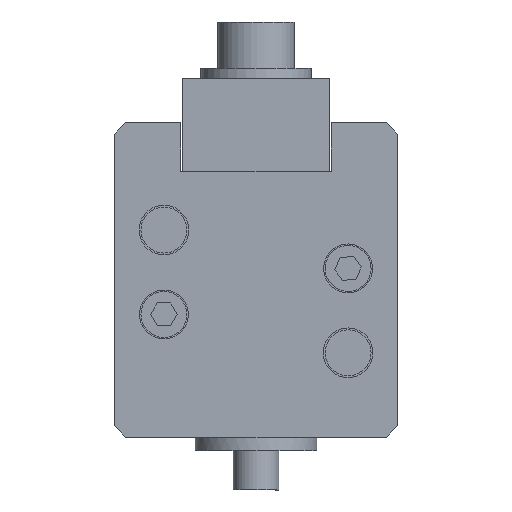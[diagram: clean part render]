
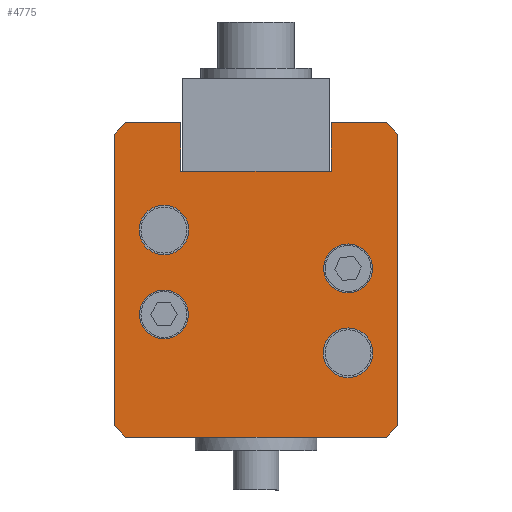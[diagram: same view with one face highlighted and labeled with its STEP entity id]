
A CAD part, front view. The second image highlights one B-rep face of the part: STEP entity #4775.
In plain terms, the highlighted planar face has unit normal (0, -1, 0).
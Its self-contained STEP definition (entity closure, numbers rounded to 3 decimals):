
#55 = DIRECTION ( 'NONE',  ( 0., 0., -1. ) ) ;
#77 = ORIENTED_EDGE ( 'NONE', *, *, #522, .T. ) ;
#101 = VERTEX_POINT ( 'NONE', #1698 ) ;
#102 = CARTESIAN_POINT ( 'NONE',  ( 8.89, -13.5, 9.779 ) ) ;
#122 = ORIENTED_EDGE ( 'NONE', *, *, #4988, .T. ) ;
#131 = VERTEX_POINT ( 'NONE', #4662 ) ;
#148 = AXIS2_PLACEMENT_3D ( 'NONE', #1252, #4133, #2942 ) ;
#165 = ORIENTED_EDGE ( 'NONE', *, *, #2870, .F. ) ;
#250 = DIRECTION ( 'NONE',  ( -0.707, 0., -0.707 ) ) ;
#302 = VECTOR ( 'NONE', #2767, 1000. ) ;
#306 = EDGE_CURVE ( 'NONE', #3373, #3373, #4469, .T. ) ;
#355 = ORIENTED_EDGE ( 'NONE', *, *, #4433, .T. ) ;
#384 = DIRECTION ( 'NONE',  ( 0., 1., 0. ) ) ;
#396 = CARTESIAN_POINT ( 'NONE',  ( 13.74, -13.5, 18.5 ) ) ;
#479 = ORIENTED_EDGE ( 'NONE', *, *, #2469, .T. ) ;
#522 = EDGE_CURVE ( 'NONE', #101, #101, #3966, .T. ) ;
#621 = FACE_BOUND ( 'NONE', #4503, .T. ) ;
#626 = CARTESIAN_POINT ( 'NONE',  ( 1.24, -13.5, 12. ) ) ;
#633 = CARTESIAN_POINT ( 'NONE',  ( -25.76, -13.5, 18.5 ) ) ;
#667 = AXIS2_PLACEMENT_3D ( 'NONE', #4298, #736, #1068 ) ;
#671 = VECTOR ( 'NONE', #55, 1000. ) ;
#736 = DIRECTION ( 'NONE',  ( 0., 1., 0. ) ) ;
#747 = ORIENTED_EDGE ( 'NONE', *, *, #306, .F. ) ;
#786 = DIRECTION ( 'NONE',  ( -0.707, 0., 0.707 ) ) ;
#861 = CARTESIAN_POINT ( 'NONE',  ( 15.24, -13.5, 17. ) ) ;
#898 = ORIENTED_EDGE ( 'NONE', *, *, #3229, .T. ) ;
#1010 = AXIS2_PLACEMENT_3D ( 'NONE', #626, #384, #2046 ) ;
#1039 = ORIENTED_EDGE ( 'NONE', *, *, #1734, .T. ) ;
#1068 = DIRECTION ( 'NONE',  ( 0., 0., 1. ) ) ;
#1085 = DIRECTION ( 'NONE',  ( 0., -1., 0. ) ) ;
#1132 = EDGE_CURVE ( 'NONE', #4799, #5182, #2739, .T. ) ;
#1157 = VECTOR ( 'NONE', #2571, 1000. ) ;
#1158 = CARTESIAN_POINT ( 'NONE',  ( 15.24, -13.5, -17. ) ) ;
#1176 = CARTESIAN_POINT ( 'NONE',  ( -25.76, -13.5, -17. ) ) ;
#1231 = EDGE_CURVE ( 'NONE', #1630, #2444, #5042, .T. ) ;
#1252 = CARTESIAN_POINT ( 'NONE',  ( -3.76, -13.5, -12. ) ) ;
#1451 = PLANE ( 'NONE',  #2480 ) ;
#1461 = EDGE_CURVE ( 'NONE', #3690, #2911, #4793, .T. ) ;
#1490 = DIRECTION ( 'NONE',  ( 0., 0., -1. ) ) ;
#1518 = LINE ( 'NONE', #4424, #2960 ) ;
#1524 = ORIENTED_EDGE ( 'NONE', *, *, #1132, .F. ) ;
#1596 = CARTESIAN_POINT ( 'NONE',  ( -25.76, -13.5, 17. ) ) ;
#1630 = VERTEX_POINT ( 'NONE', #2438 ) ;
#1649 = VERTEX_POINT ( 'NONE', #861 ) ;
#1652 = EDGE_LOOP ( 'NONE', ( #2193 ) ) ;
#1698 = CARTESIAN_POINT ( 'NONE',  ( 1.24, -13.5, 15.238 ) ) ;
#1734 = EDGE_CURVE ( 'NONE', #2911, #131, #1796, .T. ) ;
#1796 = LINE ( 'NONE', #2912, #1157 ) ;
#1798 = CARTESIAN_POINT ( 'NONE',  ( -14.76, -13.5, -8.762 ) ) ;
#1800 = EDGE_CURVE ( 'NONE', #4107, #1630, #4583, .T. ) ;
#1839 = FACE_BOUND ( 'NONE', #2463, .T. ) ;
#1870 = CARTESIAN_POINT ( 'NONE',  ( 13.74, -13.5, -18.5 ) ) ;
#1965 = LINE ( 'NONE', #3981, #3496 ) ;
#2004 = ORIENTED_EDGE ( 'NONE', *, *, #3787, .F. ) ;
#2017 = CARTESIAN_POINT ( 'NONE',  ( 15.24, -13.5, 18.5 ) ) ;
#2046 = DIRECTION ( 'NONE',  ( 0., 0., 1. ) ) ;
#2094 = LINE ( 'NONE', #2017, #671 ) ;
#2148 = ORIENTED_EDGE ( 'NONE', *, *, #5162, .T. ) ;
#2193 = ORIENTED_EDGE ( 'NONE', *, *, #2654, .F. ) ;
#2253 = VERTEX_POINT ( 'NONE', #2725 ) ;
#2264 = VECTOR ( 'NONE', #4828, 1000. ) ;
#2414 = LINE ( 'NONE', #2811, #2264 ) ;
#2434 = CIRCLE ( 'NONE', #148, 3.183 ) ;
#2438 = CARTESIAN_POINT ( 'NONE',  ( 15.24, -13.5, -9.779 ) ) ;
#2444 = VERTEX_POINT ( 'NONE', #2735 ) ;
#2463 = EDGE_LOOP ( 'NONE', ( #747 ) ) ;
#2469 = EDGE_CURVE ( 'NONE', #2253, #4087, #2414, .T. ) ;
#2480 = AXIS2_PLACEMENT_3D ( 'NONE', #3750, #2982, #4223 ) ;
#2522 = VECTOR ( 'NONE', #5071, 1000. ) ;
#2524 = CARTESIAN_POINT ( 'NONE',  ( -25.76, -13.5, 18.5 ) ) ;
#2571 = DIRECTION ( 'NONE',  ( 0.707, 0., -0.707 ) ) ;
#2592 = DIRECTION ( 'NONE',  ( 1., 0., 0. ) ) ;
#2654 = EDGE_CURVE ( 'NONE', #3765, #3765, #2434, .T. ) ;
#2696 = DIRECTION ( 'NONE',  ( 1., 0., 0. ) ) ;
#2725 = CARTESIAN_POINT ( 'NONE',  ( 8.89, -13.5, 9.779 ) ) ;
#2729 = VECTOR ( 'NONE', #4398, 1000. ) ;
#2731 = LINE ( 'NONE', #4003, #2729 ) ;
#2735 = CARTESIAN_POINT ( 'NONE',  ( 15.24, -13.5, -17. ) ) ;
#2739 = LINE ( 'NONE', #2524, #3376 ) ;
#2767 = DIRECTION ( 'NONE',  ( 0.707, 0., 0.707 ) ) ;
#2811 = CARTESIAN_POINT ( 'NONE',  ( 8.89, -13.5, 9.779 ) ) ;
#2870 = EDGE_CURVE ( 'NONE', #1649, #4087, #2094, .T. ) ;
#2911 = VERTEX_POINT ( 'NONE', #1176 ) ;
#2912 = CARTESIAN_POINT ( 'NONE',  ( -25.76, -13.5, -17. ) ) ;
#2942 = DIRECTION ( 'NONE',  ( 1., 0., 0. ) ) ;
#2960 = VECTOR ( 'NONE', #786, 1000. ) ;
#2982 = DIRECTION ( 'NONE',  ( 0., 1., 0. ) ) ;
#3001 = CARTESIAN_POINT ( 'NONE',  ( 15.24, -13.5, 18.5 ) ) ;
#3178 = CARTESIAN_POINT ( 'NONE',  ( 15.24, -13.5, 9.779 ) ) ;
#3229 = EDGE_CURVE ( 'NONE', #4499, #4499, #3551, .T. ) ;
#3298 = LINE ( 'NONE', #102, #4192 ) ;
#3373 = VERTEX_POINT ( 'NONE', #4102 ) ;
#3376 = VECTOR ( 'NONE', #3713, 1000. ) ;
#3496 = VECTOR ( 'NONE', #250, 1000. ) ;
#3551 = CIRCLE ( 'NONE', #667, 3.238 ) ;
#3654 = DIRECTION ( 'NONE',  ( 0., 0., -1. ) ) ;
#3690 = VERTEX_POINT ( 'NONE', #1596 ) ;
#3713 = DIRECTION ( 'NONE',  ( 1., 0., 0. ) ) ;
#3720 = EDGE_CURVE ( 'NONE', #1649, #5182, #1518, .T. ) ;
#3750 = CARTESIAN_POINT ( 'NONE',  ( -25.76, -13.5, 18.5 ) ) ;
#3765 = VERTEX_POINT ( 'NONE', #4585 ) ;
#3774 = FACE_OUTER_BOUND ( 'NONE', #4608, .T. ) ;
#3787 = EDGE_CURVE ( 'NONE', #2253, #4107, #3298, .T. ) ;
#3829 = FACE_BOUND ( 'NONE', #1652, .T. ) ;
#3966 = CIRCLE ( 'NONE', #1010, 3.238 ) ;
#3981 = CARTESIAN_POINT ( 'NONE',  ( -24.26, -13.5, 18.5 ) ) ;
#4003 = CARTESIAN_POINT ( 'NONE',  ( -25.76, -13.5, -18.5 ) ) ;
#4087 = VERTEX_POINT ( 'NONE', #3178 ) ;
#4102 = CARTESIAN_POINT ( 'NONE',  ( -6.577, -13.5, 12. ) ) ;
#4107 = VERTEX_POINT ( 'NONE', #5164 ) ;
#4133 = DIRECTION ( 'NONE',  ( 0., -1., 0. ) ) ;
#4192 = VECTOR ( 'NONE', #3654, 1000. ) ;
#4223 = DIRECTION ( 'NONE',  ( 0., 0., 1. ) ) ;
#4298 = CARTESIAN_POINT ( 'NONE',  ( -14.76, -13.5, -12. ) ) ;
#4304 = AXIS2_PLACEMENT_3D ( 'NONE', #4786, #1085, #2696 ) ;
#4353 = ORIENTED_EDGE ( 'NONE', *, *, #1461, .T. ) ;
#4398 = DIRECTION ( 'NONE',  ( 1., 0., 0. ) ) ;
#4424 = CARTESIAN_POINT ( 'NONE',  ( 13.74, -13.5, 18.5 ) ) ;
#4427 = ORIENTED_EDGE ( 'NONE', *, *, #1800, .F. ) ;
#4433 = EDGE_CURVE ( 'NONE', #4860, #2444, #4781, .T. ) ;
#4452 = VECTOR ( 'NONE', #2592, 1000. ) ;
#4469 = CIRCLE ( 'NONE', #4304, 3.183 ) ;
#4499 = VERTEX_POINT ( 'NONE', #1798 ) ;
#4503 = EDGE_LOOP ( 'NONE', ( #898 ) ) ;
#4555 = CARTESIAN_POINT ( 'NONE',  ( 8.89, -13.5, -9.779 ) ) ;
#4573 = FACE_BOUND ( 'NONE', #4792, .T. ) ;
#4583 = LINE ( 'NONE', #4555, #4452 ) ;
#4585 = CARTESIAN_POINT ( 'NONE',  ( -0.577, -13.5, -12. ) ) ;
#4597 = CARTESIAN_POINT ( 'NONE',  ( -24.26, -13.5, 18.5 ) ) ;
#4608 = EDGE_LOOP ( 'NONE', ( #4353, #1039, #2148, #355, #5070, #4427, #2004, #479, #165, #4675, #1524, #122 ) ) ;
#4662 = CARTESIAN_POINT ( 'NONE',  ( -24.26, -13.5, -18.5 ) ) ;
#4675 = ORIENTED_EDGE ( 'NONE', *, *, #3720, .T. ) ;
#4775 = ADVANCED_FACE ( 'NONE', ( #1839, #621, #4573, #3829, #3774 ), #1451, .F. ) ;
#4781 = LINE ( 'NONE', #1158, #302 ) ;
#4786 = CARTESIAN_POINT ( 'NONE',  ( -9.76, -13.5, 12. ) ) ;
#4789 = VECTOR ( 'NONE', #1490, 1000. ) ;
#4792 = EDGE_LOOP ( 'NONE', ( #77 ) ) ;
#4793 = LINE ( 'NONE', #633, #4789 ) ;
#4799 = VERTEX_POINT ( 'NONE', #4597 ) ;
#4828 = DIRECTION ( 'NONE',  ( 1., 0., 0. ) ) ;
#4860 = VERTEX_POINT ( 'NONE', #1870 ) ;
#4988 = EDGE_CURVE ( 'NONE', #4799, #3690, #1965, .T. ) ;
#5042 = LINE ( 'NONE', #3001, #2522 ) ;
#5070 = ORIENTED_EDGE ( 'NONE', *, *, #1231, .F. ) ;
#5071 = DIRECTION ( 'NONE',  ( 0., 0., -1. ) ) ;
#5162 = EDGE_CURVE ( 'NONE', #131, #4860, #2731, .T. ) ;
#5164 = CARTESIAN_POINT ( 'NONE',  ( 8.89, -13.5, -9.779 ) ) ;
#5182 = VERTEX_POINT ( 'NONE', #396 ) ;
